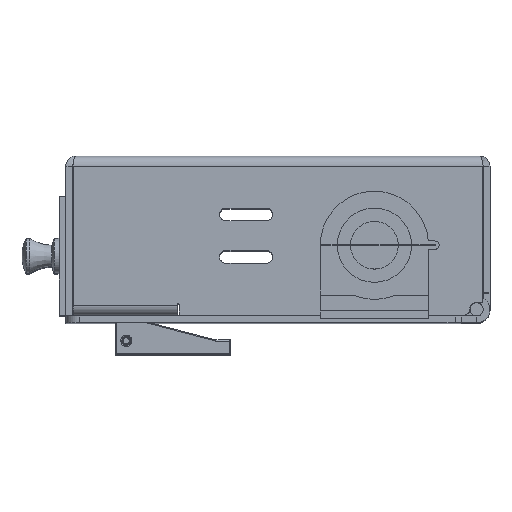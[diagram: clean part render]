
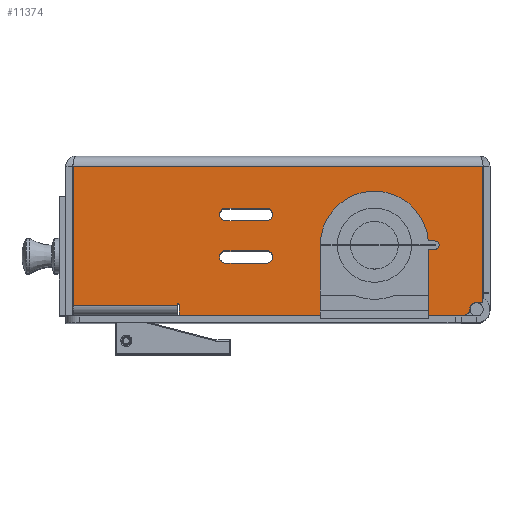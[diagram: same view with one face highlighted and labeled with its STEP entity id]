
A CAD part, top view. The second image highlights one B-rep face of the part: STEP entity #11374.
In plain terms, the highlighted planar face has unit normal (0, 0, 1) as drawn and (-1, 0, 0) by its records, which use the part's own axes.
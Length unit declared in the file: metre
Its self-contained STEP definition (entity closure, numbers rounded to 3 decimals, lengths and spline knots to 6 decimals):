
#1038=CIRCLE('',#13397,0.001524);
#1040=CIRCLE('',#13401,0.001524);
#1042=CIRCLE('',#13404,0.001524);
#1044=CIRCLE('',#13408,0.001524);
#1046=CIRCLE('',#13414,0.000254);
#1048=CIRCLE('',#13420,0.009906);
#1049=CIRCLE('',#13424,0.001651);
#1051=CIRCLE('',#13430,0.001524);
#3471=ORIENTED_EDGE('',*,*,#5443,.F.);
#3472=ORIENTED_EDGE('',*,*,#5455,.T.);
#3473=ORIENTED_EDGE('',*,*,#5445,.T.);
#3474=ORIENTED_EDGE('',*,*,#5450,.T.);
#3475=ORIENTED_EDGE('',*,*,#5413,.F.);
#3476=ORIENTED_EDGE('',*,*,#5456,.T.);
#3477=ORIENTED_EDGE('',*,*,#5417,.T.);
#3478=ORIENTED_EDGE('',*,*,#5457,.F.);
#3479=ORIENTED_EDGE('',*,*,#5421,.F.);
#3480=ORIENTED_EDGE('',*,*,#5424,.T.);
#3481=ORIENTED_EDGE('',*,*,#5427,.T.);
#3482=ORIENTED_EDGE('',*,*,#5430,.F.);
#3483=ORIENTED_EDGE('',*,*,#5458,.T.);
#3484=ORIENTED_EDGE('',*,*,#5431,.F.);
#3485=ORIENTED_EDGE('',*,*,#5437,.F.);
#3486=ORIENTED_EDGE('',*,*,#5440,.T.);
#3487=ORIENTED_EDGE('',*,*,#5459,.T.);
#3488=ORIENTED_EDGE('',*,*,#5409,.F.);
#3489=ORIENTED_EDGE('',*,*,#5452,.T.);
#3490=ORIENTED_EDGE('',*,*,#5403,.F.);
#3491=ORIENTED_EDGE('',*,*,#5406,.F.);
#3492=ORIENTED_EDGE('',*,*,#5399,.F.);
#3493=ORIENTED_EDGE('',*,*,#5454,.T.);
#3494=ORIENTED_EDGE('',*,*,#5393,.F.);
#3495=ORIENTED_EDGE('',*,*,#5396,.F.);
#5393=EDGE_CURVE('',#6579,#6577,#1038,.F.);
#5396=EDGE_CURVE('',#6581,#6579,#7600,.T.);
#5399=EDGE_CURVE('',#6583,#6581,#1040,.F.);
#5403=EDGE_CURVE('',#6587,#6585,#1042,.F.);
#5406=EDGE_CURVE('',#6589,#6587,#7606,.T.);
#5409=EDGE_CURVE('',#6591,#6589,#1044,.F.);
#5413=EDGE_CURVE('',#6595,#6593,#7610,.T.);
#5417=EDGE_CURVE('',#6597,#6599,#7613,.F.);
#5421=EDGE_CURVE('',#6603,#6601,#7617,.T.);
#5424=EDGE_CURVE('',#6603,#6605,#1046,.T.);
#5427=EDGE_CURVE('',#6605,#6607,#7621,.T.);
#5430=EDGE_CURVE('',#6609,#6607,#7624,.T.);
#5431=EDGE_CURVE('',#6610,#6611,#7625,.T.);
#5437=EDGE_CURVE('',#6615,#6610,#1048,.F.);
#5440=EDGE_CURVE('',#6615,#6617,#7632,.T.);
#5443=EDGE_CURVE('',#6620,#6621,#7635,.T.);
#5445=EDGE_CURVE('',#6622,#6623,#1049,.T.);
#5450=EDGE_CURVE('',#6623,#6593,#7640,.T.);
#5452=EDGE_CURVE('',#6591,#6585,#7642,.T.);
#5454=EDGE_CURVE('',#6583,#6577,#7644,.T.);
#5455=EDGE_CURVE('',#6620,#6622,#1051,.F.);
#5456=EDGE_CURVE('',#6595,#6597,#7645,.F.);
#5457=EDGE_CURVE('',#6601,#6599,#7646,.T.);
#5458=EDGE_CURVE('',#6609,#6611,#7647,.F.);
#5459=EDGE_CURVE('',#6617,#6621,#7648,.T.);
#6577=VERTEX_POINT('',#19753);
#6579=VERTEX_POINT('',#19757);
#6581=VERTEX_POINT('',#19763);
#6583=VERTEX_POINT('',#19769);
#6585=VERTEX_POINT('',#19774);
#6587=VERTEX_POINT('',#19778);
#6589=VERTEX_POINT('',#19784);
#6591=VERTEX_POINT('',#19790);
#6593=VERTEX_POINT('',#19795);
#6595=VERTEX_POINT('',#19802);
#6597=VERTEX_POINT('',#19810);
#6599=VERTEX_POINT('',#19814);
#6601=VERTEX_POINT('',#19819);
#6603=VERTEX_POINT('',#19823);
#6605=VERTEX_POINT('',#19829);
#6607=VERTEX_POINT('',#19835);
#6609=VERTEX_POINT('',#19841);
#6610=VERTEX_POINT('',#19845);
#6611=VERTEX_POINT('',#19846);
#6615=VERTEX_POINT('',#19856);
#6617=VERTEX_POINT('',#19862);
#6620=VERTEX_POINT('',#19869);
#6621=VERTEX_POINT('',#19871);
#6622=VERTEX_POINT('',#19875);
#6623=VERTEX_POINT('',#19876);
#7600=LINE('',#19764,#8643);
#7606=LINE('',#19785,#8649);
#7610=LINE('',#19803,#8653);
#7613=LINE('',#19815,#8656);
#7617=LINE('',#19824,#8660);
#7621=LINE('',#19836,#8664);
#7624=LINE('',#19842,#8667);
#7625=LINE('',#19844,#8668);
#7632=LINE('',#19863,#8675);
#7635=LINE('',#19870,#8678);
#7640=LINE('',#19884,#8683);
#7642=LINE('',#19887,#8685);
#7644=LINE('',#19890,#8687);
#7645=LINE('',#19893,#8688);
#7646=LINE('',#19894,#8689);
#7647=LINE('',#19895,#8690);
#7648=LINE('',#19896,#8691);
#8643=VECTOR('',#15957,1.);
#8649=VECTOR('',#15977,1.);
#8653=VECTOR('',#15989,1.);
#8656=VECTOR('',#15994,1.);
#8660=VECTOR('',#16000,1.);
#8664=VECTOR('',#16012,1.);
#8667=VECTOR('',#16017,1.);
#8668=VECTOR('',#16020,1.);
#8675=VECTOR('',#16035,1.);
#8678=VECTOR('',#16040,1.);
#8683=VECTOR('',#16053,1.);
#8685=VECTOR('',#16057,1.);
#8687=VECTOR('',#16061,1.);
#8688=VECTOR('',#16066,1.);
#8689=VECTOR('',#16067,1.);
#8690=VECTOR('',#16068,1.);
#8691=VECTOR('',#16069,1.);
#9527=EDGE_LOOP('',(#3471,#3472,#3473,#3474,#3475,#3476,#3477,#3478,#3479,
#3480,#3481,#3482,#3483,#3484,#3485,#3486,#3487));
#9528=EDGE_LOOP('',(#3488,#3489,#3490,#3491));
#9529=EDGE_LOOP('',(#3492,#3493,#3494,#3495));
#10330=FACE_BOUND('',#9527,.T.);
#10331=FACE_BOUND('',#9528,.T.);
#10332=FACE_BOUND('',#9529,.T.);
#10806=PLANE('',#13429);
#11374=ADVANCED_FACE('',(#10330,#10331,#10332),#10806,.F.);
#13397=AXIS2_PLACEMENT_3D('',#19758,#15951,#15952);
#13401=AXIS2_PLACEMENT_3D('',#19770,#15963,#15964);
#13404=AXIS2_PLACEMENT_3D('',#19779,#15971,#15972);
#13408=AXIS2_PLACEMENT_3D('',#19791,#15983,#15984);
#13414=AXIS2_PLACEMENT_3D('',#19830,#16006,#16007);
#13420=AXIS2_PLACEMENT_3D('',#19857,#16029,#16030);
#13424=AXIS2_PLACEMENT_3D('',#19874,#16044,#16045);
#13429=AXIS2_PLACEMENT_3D('',#19891,#16062,#16063);
#13430=AXIS2_PLACEMENT_3D('',#19892,#16064,#16065);
#15951=DIRECTION('',(1.,0.,0.));
#15952=DIRECTION('',(0.,0.,-1.));
#15957=DIRECTION('',(0.,1.,0.));
#15963=DIRECTION('',(1.,0.,0.));
#15964=DIRECTION('',(0.,0.,-1.));
#15971=DIRECTION('',(1.,0.,0.));
#15972=DIRECTION('',(0.,0.,-1.));
#15977=DIRECTION('',(0.,1.,0.));
#15983=DIRECTION('',(1.,0.,0.));
#15984=DIRECTION('',(0.,0.,-1.));
#15989=DIRECTION('',(0.,0.,1.));
#15994=DIRECTION('',(0.,0.,-1.));
#16000=DIRECTION('',(0.,0.,1.));
#16006=DIRECTION('',(1.,0.,0.));
#16007=DIRECTION('',(0.,0.,-1.));
#16012=DIRECTION('',(0.,0.,1.));
#16017=DIRECTION('',(0.,-1.,0.));
#16020=DIRECTION('',(0.,0.,1.));
#16029=DIRECTION('',(1.,0.,0.));
#16030=DIRECTION('',(0.,0.,-1.));
#16035=DIRECTION('',(0.,0.,1.));
#16040=DIRECTION('',(0.,-1.,0.));
#16044=DIRECTION('',(1.,0.,0.));
#16045=DIRECTION('',(0.,0.,-1.));
#16053=DIRECTION('',(0.,1.,0.));
#16057=DIRECTION('',(0.,1.,0.));
#16061=DIRECTION('',(0.,1.,0.));
#16062=DIRECTION('',(1.,0.,0.));
#16063=DIRECTION('',(0.,1.,0.));
#16064=DIRECTION('',(1.,0.,0.));
#16065=DIRECTION('',(0.,0.,-1.));
#16066=DIRECTION('',(0.,1.,0.));
#16067=DIRECTION('',(0.,-1.,0.));
#16068=DIRECTION('',(0.,-0.707,0.707));
#16069=DIRECTION('',(0.,0.707,0.707));
#19753=CARTESIAN_POINT('',(-0.066675,-0.002794,-0.025654));
#19757=CARTESIAN_POINT('',(-0.066675,-0.002794,-0.022606));
#19758=CARTESIAN_POINT('',(-0.066675,-0.002794,-0.02413));
#19763=CARTESIAN_POINT('',(-0.066675,-0.012446,-0.022606));
#19764=CARTESIAN_POINT('',(-0.066675,0.,-0.022606));
#19769=CARTESIAN_POINT('',(-0.066675,-0.012446,-0.025654));
#19770=CARTESIAN_POINT('',(-0.066675,-0.012446,-0.02413));
#19774=CARTESIAN_POINT('',(-0.066675,-0.002794,-0.015494));
#19778=CARTESIAN_POINT('',(-0.066675,-0.002794,-0.012446));
#19779=CARTESIAN_POINT('',(-0.066675,-0.002794,-0.01397));
#19784=CARTESIAN_POINT('',(-0.066675,-0.012446,-0.012446));
#19785=CARTESIAN_POINT('',(-0.066675,0.,-0.012446));
#19790=CARTESIAN_POINT('',(-0.066675,-0.012446,-0.015494));
#19791=CARTESIAN_POINT('',(-0.066675,-0.012446,-0.01397));
#19795=CARTESIAN_POINT('',(-0.066675,0.049073,-0.003061));
#19802=CARTESIAN_POINT('',(-0.066675,0.049073,-0.035706));
#19803=CARTESIAN_POINT('',(-0.066675,0.049073,-0.018161));
#19810=CARTESIAN_POINT('',(-0.066675,-0.049073,-0.035706));
#19814=CARTESIAN_POINT('',(-0.066675,-0.049073,-0.002394));
#19815=CARTESIAN_POINT('',(-0.066675,-0.049073,-0.01905));
#19819=CARTESIAN_POINT('',(-0.066675,-0.02413,-0.002394));
#19823=CARTESIAN_POINT('',(-0.066675,-0.02413,-0.00254));
#19824=CARTESIAN_POINT('',(-0.066675,-0.02413,-0.00127));
#19829=CARTESIAN_POINT('',(-0.066675,-0.023622,-0.00254));
#19830=CARTESIAN_POINT('',(-0.066675,-0.023876,-0.00254));
#19835=CARTESIAN_POINT('',(-0.066675,-0.023622,0.));
#19836=CARTESIAN_POINT('',(-0.066675,-0.023622,-0.00127));
#19841=CARTESIAN_POINT('',(-0.066675,0.011938,0.));
#19842=CARTESIAN_POINT('',(-0.066675,0.,0.));
#19844=CARTESIAN_POINT('',(-0.066675,0.013208,-0.008382));
#19845=CARTESIAN_POINT('',(-0.066675,0.013208,-0.016764));
#19846=CARTESIAN_POINT('',(-0.066675,0.013208,-0.00127));
#19856=CARTESIAN_POINT('',(-0.066675,0.03302,-0.016764));
#19857=CARTESIAN_POINT('',(-0.066675,0.023114,-0.016764));
#19862=CARTESIAN_POINT('',(-0.066675,0.03302,-0.00127));
#19863=CARTESIAN_POINT('',(-0.066675,0.03302,-0.008382));
#19869=CARTESIAN_POINT('',(-0.066675,0.044439,0.));
#19870=CARTESIAN_POINT('',(-0.066675,0.,0.));
#19871=CARTESIAN_POINT('',(-0.066675,0.03429,0.));
#19874=CARTESIAN_POINT('',(-0.066675,0.047612,-0.00141));
#19875=CARTESIAN_POINT('',(-0.066675,0.045962,-0.001469));
#19876=CARTESIAN_POINT('',(-0.066675,0.047612,-0.003061));
#19884=CARTESIAN_POINT('',(-0.066675,0.,-0.003061));
#19887=CARTESIAN_POINT('',(-0.066675,0.,-0.015494));
#19890=CARTESIAN_POINT('',(-0.066675,0.,-0.025654));
#19891=CARTESIAN_POINT('',(-0.066675,0.,-0.018161));
#19892=CARTESIAN_POINT('',(-0.066675,0.044439,-0.001524));
#19893=CARTESIAN_POINT('',(-0.066675,0.,-0.035706));
#19894=CARTESIAN_POINT('',(-0.066675,0.,-0.002394));
#19895=CARTESIAN_POINT('',(-0.066675,0.011938,0.));
#19896=CARTESIAN_POINT('',(-0.066675,0.03302,-0.00127));
